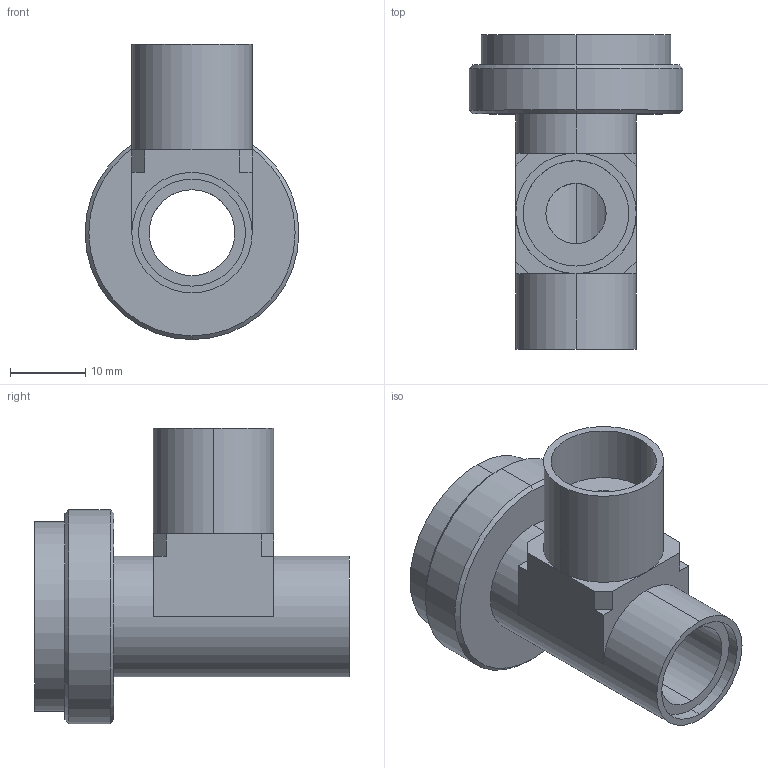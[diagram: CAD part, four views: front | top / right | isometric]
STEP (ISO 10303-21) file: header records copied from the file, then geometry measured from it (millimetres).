
FILE_DESCRIPTION (( 'STEP AP203' ), '1' );
FILE_NAME ('NT-05X65-CO.STEP', '2019-10-24T05:59:06', ( '' ), ( '' ), 'SwSTEP 2.0', 'SolidWorks 2018', '' );
FILE_SCHEMA (( 'CONFIG_CONTROL_DESIGN' ));
Length unit declared in the file: millimetre
Products named in the file (1): NT-05X65-CO
Bounding box: 28.4 x 41.75 x 39.2 mm (x, y, z)
Volume: 9916.6 mm3; surface area: 6621.2 mm2
Topology: 1 solids, 1 shells, 46 faces, 110 edges, 70 vertices
Faces by surface type: plane 24, cylinder 18, cone 4
Entity records: 1489 total; most frequent: CARTESIAN_POINT 301, DIRECTION 244, ORIENTED_EDGE 220, EDGE_CURVE 110, AXIS2_PLACEMENT_3D 91, VERTEX_POINT 70, VECTOR 62, LINE 62
